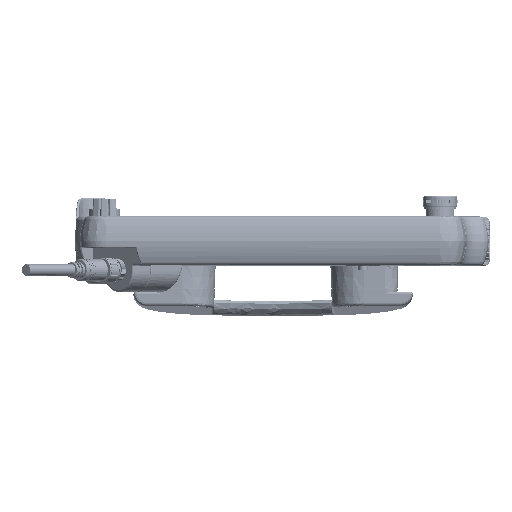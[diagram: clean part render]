
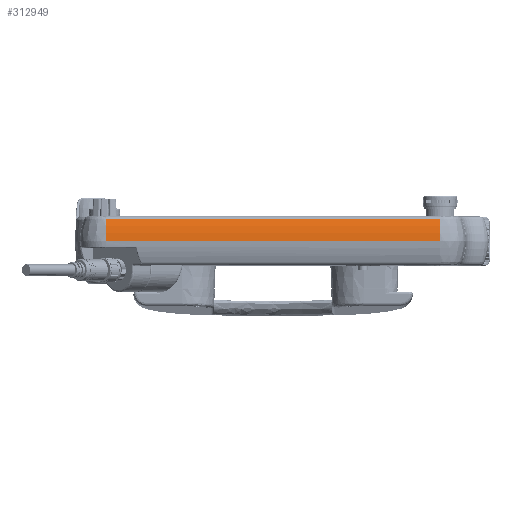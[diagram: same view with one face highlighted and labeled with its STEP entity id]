
A CAD part, top view. The second image highlights one B-rep face of the part: STEP entity #312949.
In plain terms, the highlighted cylindrical face has radius 54.473 mm (diameter 108.946 mm), a partial arc.
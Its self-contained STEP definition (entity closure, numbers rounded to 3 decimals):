
#273981=CARTESIAN_POINT('',(-118.,-14.15,102.3));
#273989=DIRECTION('',(1.,0.,0.));
#273990=VECTOR('',#273989,258.5);
#273991=CARTESIAN_POINT('',(-118.,-14.15,102.3));
#273992=LINE('',#273991,#273990);
#273999=CARTESIAN_POINT('',(140.5,-14.15,102.3));
#281635=CARTESIAN_POINT('',(140.5,2.948,
98.59));
#281661=DIRECTION('',(1.,0.,0.));
#281662=VECTOR('',#281661,258.5);
#281663=CARTESIAN_POINT('',(-118.,2.948,
98.59));
#281664=LINE('',#281663,#281662);
#281665=CARTESIAN_POINT('',(140.5,-17.001,47.902));
#281666=DIRECTION('',(-1.,0.,0.));
#281667=DIRECTION('',(0.,0.052,0.999));
#281668=AXIS2_PLACEMENT_3D('',#281665,#281666,#281667);
#281670=CARTESIAN_POINT('',(-118.,-17.001,47.902));
#281671=DIRECTION('',(1.,0.,0.));
#281672=DIRECTION('',(0.,0.366,0.931));
#281673=AXIS2_PLACEMENT_3D('',#281670,#281671,#281672);
#284631=VERTEX_POINT('',#273981);
#284634=VERTEX_POINT('',#273999);
#284644=VERTEX_POINT('',#281635);
#284647=CARTESIAN_POINT('',(-118.,2.948,
98.59));
#284648=VERTEX_POINT('',#284647);
#312937=CARTESIAN_POINT('',(-210.5,-17.001,47.902));
#312938=DIRECTION('',(1.,0.,0.));
#312939=DIRECTION('',(0.,0.,-1.));
#312940=AXIS2_PLACEMENT_3D('',#312937,#312938,#312939);
#312941=CYLINDRICAL_SURFACE('',#312940,54.473);
#312942=ORIENTED_EDGE('',*,*,#312923,.T.);
#312943=ORIENTED_EDGE('',*,*,#312828,.F.);
#312944=ORIENTED_EDGE('',*,*,#294645,.F.);
#312946=ORIENTED_EDGE('',*,*,#312945,.F.);
#312947=EDGE_LOOP('',(#312942,#312943,#312944,#312946));
#312948=FACE_OUTER_BOUND('',#312947,.F.);
#281669=CIRCLE('',#281668,54.473);
#281674=CIRCLE('',#281673,54.473);
#294645=EDGE_CURVE('',#284631,#284634,#273992,.T.);
#312828=EDGE_CURVE('',#284634,#284644,#281669,.T.);
#312923=EDGE_CURVE('',#284648,#284644,#281664,.T.);
#312945=EDGE_CURVE('',#284648,#284631,#281674,.T.);
#312949=ADVANCED_FACE('',(#312948),#312941,.T.);
